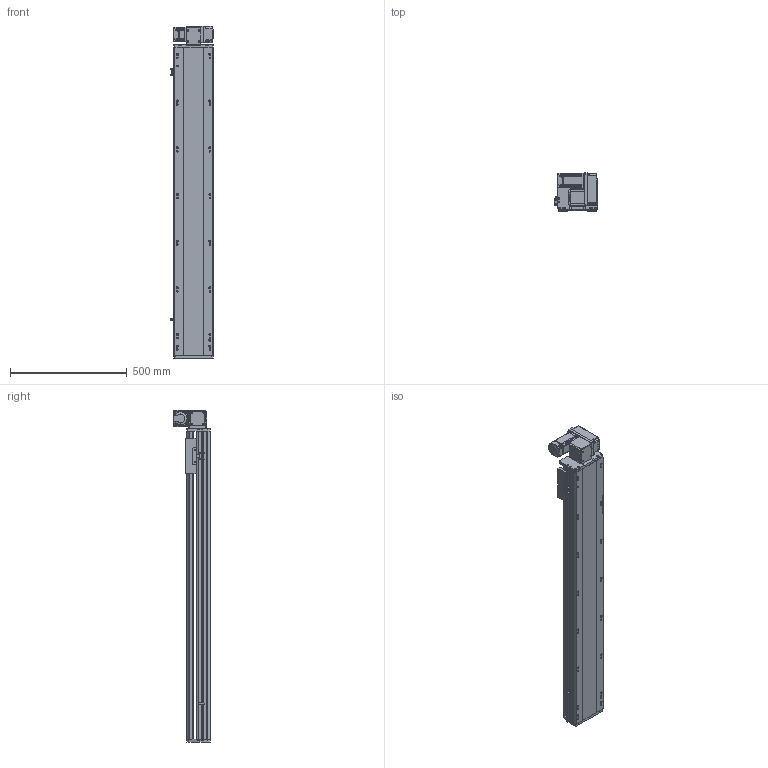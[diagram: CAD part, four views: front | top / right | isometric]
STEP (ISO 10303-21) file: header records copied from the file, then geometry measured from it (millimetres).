
FILE_DESCRIPTION (( 'STEP AP214' ), '1' );
FILE_NAME ('RTB17S-XX-1050-RW-M40-C4.STEP', '2025-12-11T08:55:38', ( '' ), ( '' ), 'SwSTEP 2.0', 'SolidWorks 2018', '' );
FILE_SCHEMA (( 'AUTOMOTIVE_DESIGN' ));
Length unit declared in the file: millimetre
Products named in the file (14): RTH13-BL-012覜茼え俋离^RTB17S-XX-XX-RW-M40-C4; 400W侜督萇儂^RTB17S-XX-XX-RW-M40-C4; RTB17S-L-001耜醱啣^RTB17S-XX-XX-RW-M40-C4; OMRON EE-SX672 传感器^RTB17S-XX-XX-RW-M40-C4; RTB17S-L-007奻裔^RTB17S-XX-XX-RW-M40-C4; RTB17-R-011菁釱^RTB17S-XX-XX-RW-M40-C4; RTB14-L-018P^RTB17S-RW-々湍釱蚾饜-400W_RTB17S-XX-XX-RW-M40-C4; RTB17S-RW-々湍釱蚾饜-400W^RTB17S-XX-XX-RW-M40-C4; RTB17S-XX-1050-RW-M40-C4; RTB17S-L-004佪裝蹟譫蟀諉釱^RTB17S-XX-XX-RW-M40-C4; RTB14-L-005P--轴承塑胶压盖^RTB17S-RW-皮带座装配-400W_RTB17S-XX-XX-RW-M40-C4; RMP17S-L-014-T20--々湍釱^RTB17S-RW-々湍釱蚾饜-400W_RTB17S-XX-XX-RW-M40-C4; RTB14-L-008-M20--萇儂啣^RTB17S-RW-々湍釱蚾饜-400W_RTB17S-XX-XX-RW-M40-C4; RTB14-L-017P^RTB17S-RW-々湍釱蚾饜-400W_RTB17S-XX-XX-RW-M40-C4
Assembly tree (16 placements, depth 3):
  RTB17S-XX-1050-RW-M40-C4
    RTB17-R-011菁釱^RTB17S-XX-XX-RW-M40-C4
    RTB17S-L-007奻裔^RTB17S-XX-XX-RW-M40-C4
    OMRON EE-SX672 传感器^RTB17S-XX-XX-RW-M40-C4  x3
    RTB17S-L-001耜醱啣^RTB17S-XX-XX-RW-M40-C4
    400W侜督萇儂^RTB17S-XX-XX-RW-M40-C4
    RTB17S-L-004佪裝蹟譫蟀諉釱^RTB17S-XX-XX-RW-M40-C4
    RTH13-BL-012覜茼え俋离^RTB17S-XX-XX-RW-M40-C4
    RTB17S-RW-々湍釱蚾饜-400W^RTB17S-XX-XX-RW-M40-C4
      RMP17S-L-014-T20--々湍釱^RTB17S-RW-々湍釱蚾饜-400W_RTB17S-XX-XX-RW-M40-C4
      RTB14-L-005P--轴承塑胶压盖^RTB17S-RW-皮带座装配-400W_RTB17S-XX-XX-RW-M40-C4
      RTB14-L-008-M20--萇儂啣^RTB17S-RW-々湍釱蚾饜-400W_RTB17S-XX-XX-RW-M40-C4
      RTB14-L-017P^RTB17S-RW-々湍釱蚾饜-400W_RTB17S-XX-XX-RW-M40-C4  x2
      RTB14-L-018P^RTB17S-RW-々湍釱蚾饜-400W_RTB17S-XX-XX-RW-M40-C4
Bounding box: 183.5 x 160.5 x 1422.5 mm (x, y, z)
Volume: 12776869.5 mm3; surface area: 1544328 mm2
Topology: 15 solids, 15 shells, 2221 faces, 6141 edges, 4005 vertices
Faces by surface type: plane 1070, cylinder 703, bspline 301, cone 139, torus 8
Entity records: 63401 total; most frequent: CARTESIAN_POINT 17746, ORIENTED_EDGE 9126, DIRECTION 8486, EDGE_CURVE 4563, VERTEX_POINT 2993, AXIS2_PLACEMENT_3D 2923, VECTOR 2640, LINE 2640
